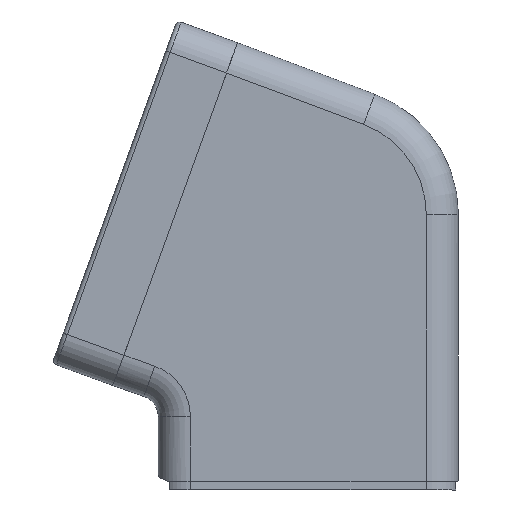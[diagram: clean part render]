
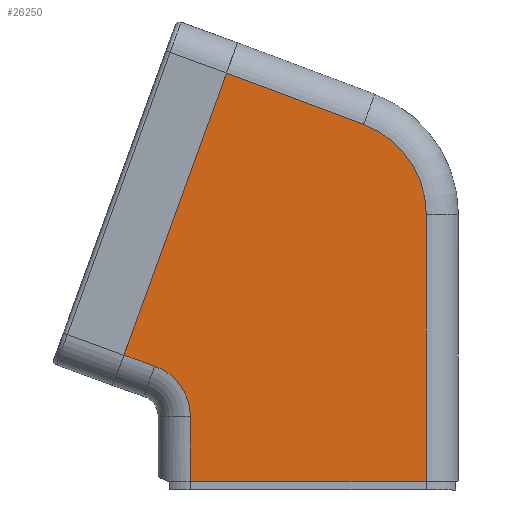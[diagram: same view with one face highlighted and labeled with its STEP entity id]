
A CAD part, left-side view. The second image highlights one B-rep face of the part: STEP entity #26250.
In plain terms, the highlighted planar face has unit normal (-1, 0, 0).
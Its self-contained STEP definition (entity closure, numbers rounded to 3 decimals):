
#875 = DIRECTION ( 'NONE',  ( 0., 0.937, 0.35 ) ) ;
#1029 = EDGE_CURVE ( 'NONE', #29711, #11368, #28853, .T. ) ;
#1150 = DIRECTION ( 'NONE',  ( 0., 0., -1. ) ) ;
#1517 = VERTEX_POINT ( 'NONE', #3352 ) ;
#2045 = CARTESIAN_POINT ( 'NONE',  ( -42.5, 35.827, 26.887 ) ) ;
#2179 = CARTESIAN_POINT ( 'NONE',  ( -42.5, 35.827, 26.887 ) ) ;
#2311 = VECTOR ( 'NONE', #19047, 1000. ) ;
#2805 = FACE_OUTER_BOUND ( 'NONE', #6947, .T. ) ;
#3352 = CARTESIAN_POINT ( 'NONE',  ( -42.5, 19.085, 95.214 ) ) ;
#3984 = DIRECTION ( 'NONE',  ( 0., -0.342, 0.94 ) ) ;
#4000 = VERTEX_POINT ( 'NONE', #22552 ) ;
#4025 = ORIENTED_EDGE ( 'NONE', *, *, #21695, .F. ) ;
#4323 = CARTESIAN_POINT ( 'NONE',  ( -42.5, 27.5, 0. ) ) ;
#4654 = DIRECTION ( 'NONE',  ( 0., -0.943, -0.334 ) ) ;
#4696 = EDGE_CURVE ( 'NONE', #4000, #5897, #27051, .T. ) ;
#5550 = EDGE_CURVE ( 'NONE', #11368, #24619, #30949, .T. ) ;
#5897 = VERTEX_POINT ( 'NONE', #7246 ) ;
#6780 = DIRECTION ( 'NONE',  ( -1., 0., 0. ) ) ;
#6947 = EDGE_LOOP ( 'NONE', ( #7544, #24971, #4025, #13405, #29887, #20855, #13437, #23510 ) ) ;
#7246 = CARTESIAN_POINT ( 'NONE',  ( -42.5, -27.5, 62.188 ) ) ;
#7544 = ORIENTED_EDGE ( 'NONE', *, *, #1029, .T. ) ;
#7810 = AXIS2_PLACEMENT_3D ( 'NONE', #21002, #6780, #23431 ) ;
#8095 = VERTEX_POINT ( 'NONE', #28397 ) ;
#8257 = CARTESIAN_POINT ( 'NONE',  ( -42.5, 17.546, 99.443 ) ) ;
#11328 = DIRECTION ( 'NONE',  ( -1., 0., 0. ) ) ;
#11365 = CARTESIAN_POINT ( 'NONE',  ( -42.5, 40., 15.104 ) ) ;
#11368 = VERTEX_POINT ( 'NONE', #21292 ) ;
#12536 = DIRECTION ( 'NONE',  ( 0., 1., 0. ) ) ;
#13405 = ORIENTED_EDGE ( 'NONE', *, *, #4696, .T. ) ;
#13437 = ORIENTED_EDGE ( 'NONE', *, *, #15633, .F. ) ;
#13756 = DIRECTION ( 'NONE',  ( 0., 0., 1. ) ) ;
#14262 = CARTESIAN_POINT ( 'NONE',  ( -42.5, -27.5, 62.188 ) ) ;
#15554 = CARTESIAN_POINT ( 'NONE',  ( -42.5, 27.5, 1.61 ) ) ;
#15633 = EDGE_CURVE ( 'NONE', #26377, #1517, #17402, .T. ) ;
#17209 = VECTOR ( 'NONE', #12536, 1000. ) ;
#17402 = LINE ( 'NONE', #8257, #29363 ) ;
#17407 = VECTOR ( 'NONE', #4654, 1000. ) ;
#18202 = VECTOR ( 'NONE', #1150, 1000. ) ;
#18350 = AXIS2_PLACEMENT_3D ( 'NONE', #11365, #28041, #13756 ) ;
#19047 = DIRECTION ( 'NONE',  ( 0., 0., 1. ) ) ;
#19484 = AXIS2_PLACEMENT_3D ( 'NONE', #25618, #11328, #28006 ) ;
#20460 = EDGE_CURVE ( 'NONE', #5897, #8095, #30881, .T. ) ;
#20855 = ORIENTED_EDGE ( 'NONE', *, *, #28468, .T. ) ;
#21002 = CARTESIAN_POINT ( 'NONE',  ( -42.5, -5., 62.188 ) ) ;
#21292 = CARTESIAN_POINT ( 'NONE',  ( -42.5, 27.5, 15.104 ) ) ;
#21695 = EDGE_CURVE ( 'NONE', #4000, #24619, #23542, .T. ) ;
#21959 = CARTESIAN_POINT ( 'NONE',  ( -42.5, 15.5, 0. ) ) ;
#22552 = CARTESIAN_POINT ( 'NONE',  ( -42.5, -27.5, 0. ) ) ;
#22554 = VECTOR ( 'NONE', #875, 1000. ) ;
#23431 = DIRECTION ( 'NONE',  ( 0., 0., 1. ) ) ;
#23510 = ORIENTED_EDGE ( 'NONE', *, *, #28251, .T. ) ;
#23542 = LINE ( 'NONE', #21959, #17209 ) ;
#23732 = LINE ( 'NONE', #2179, #17407 ) ;
#24619 = VERTEX_POINT ( 'NONE', #4323 ) ;
#24971 = ORIENTED_EDGE ( 'NONE', *, *, #5550, .T. ) ;
#25506 = PLANE ( 'NONE',  #19484 ) ;
#25618 = CARTESIAN_POINT ( 'NONE',  ( -42.5, -34.5, 0.5 ) ) ;
#26250 = ADVANCED_FACE ( 'NONE', ( #2805 ), #25506, .T. ) ;
#26377 = VERTEX_POINT ( 'NONE', #31083 ) ;
#27051 = LINE ( 'NONE', #14262, #2311 ) ;
#28006 = DIRECTION ( 'NONE',  ( 0., 0., 1. ) ) ;
#28041 = DIRECTION ( 'NONE',  ( 1., 0., 0. ) ) ;
#28251 = EDGE_CURVE ( 'NONE', #26377, #29711, #23732, .T. ) ;
#28397 = CARTESIAN_POINT ( 'NONE',  ( -42.5, -12.88, 83.263 ) ) ;
#28468 = EDGE_CURVE ( 'NONE', #8095, #1517, #29703, .T. ) ;
#28853 = CIRCLE ( 'NONE', #18350, 12.5 ) ;
#29363 = VECTOR ( 'NONE', #3984, 1000. ) ;
#29418 = CARTESIAN_POINT ( 'NONE',  ( -42.5, 19.146, 95.237 ) ) ;
#29703 = LINE ( 'NONE', #29418, #22554 ) ;
#29711 = VERTEX_POINT ( 'NONE', #2045 ) ;
#29887 = ORIENTED_EDGE ( 'NONE', *, *, #20460, .T. ) ;
#30881 = CIRCLE ( 'NONE', #7810, 22.5 ) ;
#30949 = LINE ( 'NONE', #15554, #18202 ) ;
#31083 = CARTESIAN_POINT ( 'NONE',  ( -42.5, 43.026, 29.436 ) ) ;
